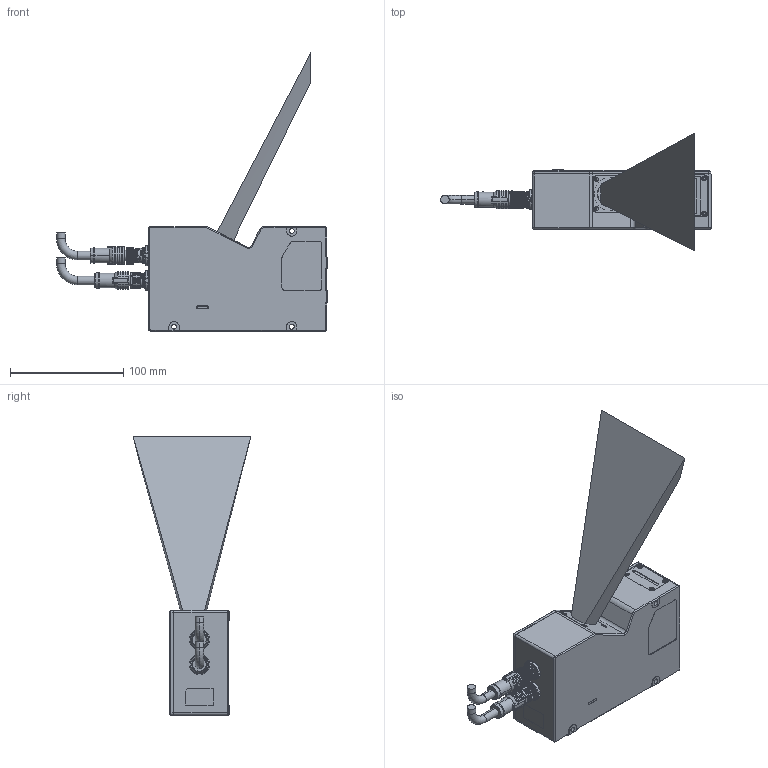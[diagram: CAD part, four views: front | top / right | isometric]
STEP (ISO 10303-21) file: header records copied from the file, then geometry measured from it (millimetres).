
FILE_DESCRIPTION((''),'2;1');
FILE_NAME('PRT0015','2026-05-23T11:13:08',('wangjiayi28'),(''),'CREO PARAMETRIC BY PTC INC, 2020044','CREO PARAMETRIC BY PTC INC, 2020044','');
FILE_SCHEMA(('AUTOMOTIVE_DESIGN { 1 0 10303 214 1 1 1 1 }'));
Products named in the file (1): PRT0015
Bounding box: 239.25 x 104 x 247 mm (x, y, z)
Volume: 3672.3 mm3; surface area: 97259.5 mm2
Topology: 2 solids, 50 shells, 1729 faces, 5214 edges, 3451 vertices
Faces by surface type: plane 894, cylinder 508, cone 167, bspline 88, torus 70, extrusion 2
Entity records: 100401 total; most frequent: CARTESIAN_POINT 55270, ORIENTED_EDGE 9317, DIRECTION 8890, EDGE_CURVE 5187, VERTEX_POINT 3451, AXIS2_PLACEMENT_3D 3216, VECTOR 2458, LINE 2456
